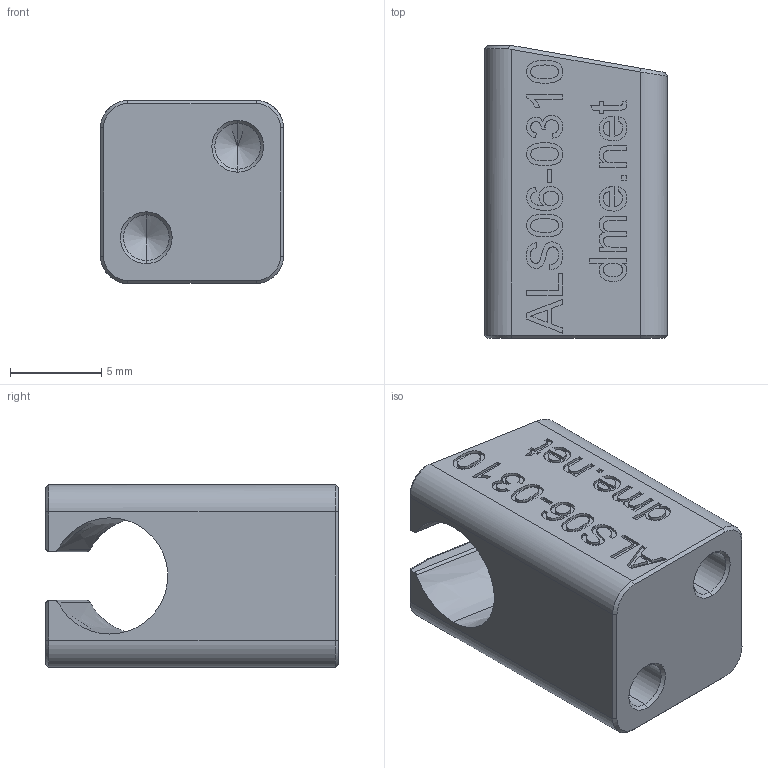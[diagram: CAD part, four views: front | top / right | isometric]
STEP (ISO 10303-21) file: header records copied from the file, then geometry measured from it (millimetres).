
FILE_DESCRIPTION (( 'STEP AP203' ), '1' );
FILE_NAME ('ALS06-0310.STEP', '2021-01-08T21:39:34', ( '' ), ( '' ), 'SwSTEP 2.0', 'SolidWorks 2020', '' );
FILE_SCHEMA (( 'CONFIG_CONTROL_DESIGN' ));
Length unit declared in the file: millimetre
Products named in the file (1): ALS06-0310
Bounding box: 10 x 16 x 10 mm (x, y, z)
Volume: 1113.1 mm3; surface area: 963 mm2
Topology: 1 solids, 1 shells, 279 faces, 731 edges, 477 vertices
Faces by surface type: bspline 127, plane 124, cone 14, cylinder 14
Entity records: 15455 total; most frequent: CARTESIAN_POINT 9442, ORIENTED_EDGE 1454, DIRECTION 779, EDGE_CURVE 727, VERTEX_POINT 477, VECTOR 427, LINE 427, EDGE_LOOP 306
